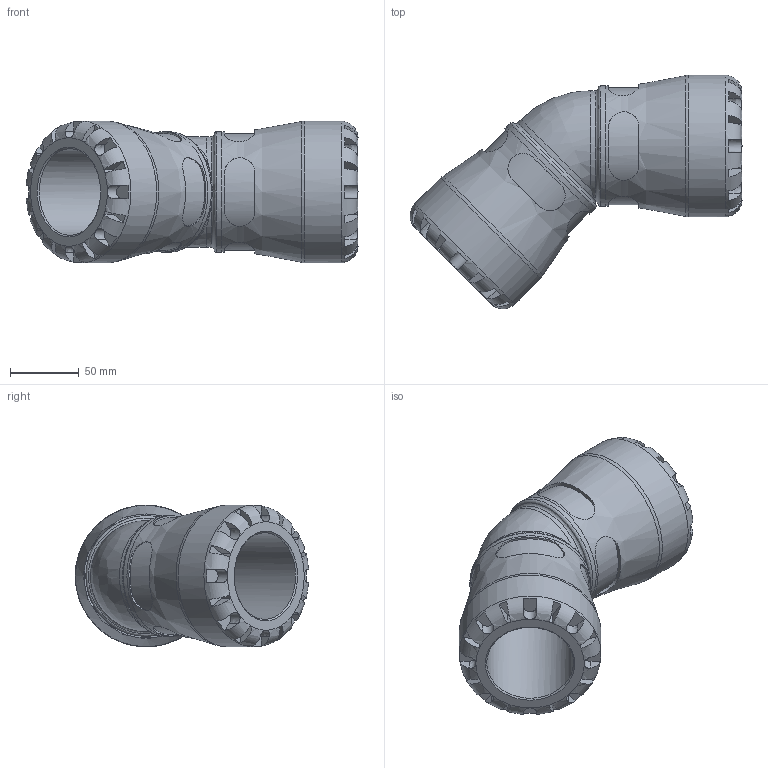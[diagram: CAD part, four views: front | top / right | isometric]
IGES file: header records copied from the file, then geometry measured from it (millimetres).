
Global section: file name: 150600063; native system: Autodesk Inventor 2019; preprocessor: unknown; author: KIM; date: 20231017.193712; units: millimetre
Bounding box: 241.18 x 169.68 x 103 mm (x, y, z)
Volume: 949002.6 mm3; surface area: 136469.1 mm2
Topology: 1 solids, 1 shells, 196 faces, 524 edges, 336 vertices
Faces by surface type: bspline 196
